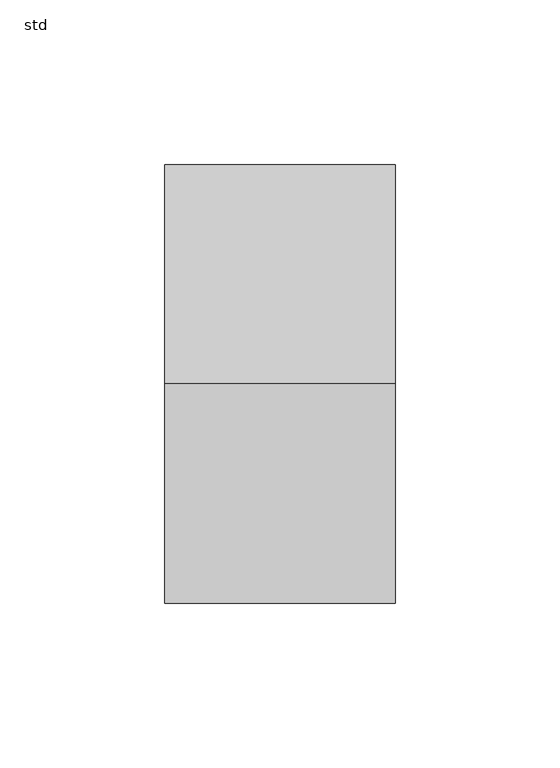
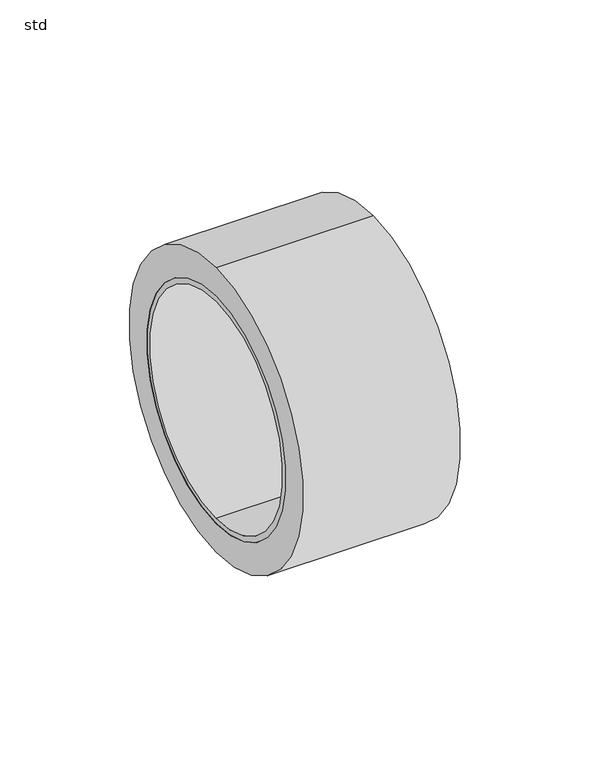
"""IFC4 building model written with IfcOpenShell, lengths in millimetres: pipe fitting geometry, PIF_ST_UN_GM-X compound pipe multi-optimiser (transition)_ACO : std."""

from ifc_helpers import new_model, si_unit, point, frame, origin, origin_2d, place, context, project, spatial, polyline, circle_curve, trimmed, segment, composite_curve, outline, extrude, source, transform, mapped, element, save
from ifc_brep_helpers import plane_surface, cylinder_surface, revolved_surface, advanced_brep


def std_26593bc8(model_context):
    return source(origin(), model_context, "Body", "SolidModel", [
        extrude(outline(composite_curve([segment(trimmed(circle_curve(origin_2d(), 67.0), [point((0.0, -67.0))], [point((0.0, 67.0))], False, "CARTESIAN"), True, "CONTINUOUS"), segment(trimmed(circle_curve(origin_2d(), 67.0), [point((0.0, 67.0))], [point((0.0, -67.0))], False, "CARTESIAN"), True, "CONTINUOUS")], self_intersect=False), holes=[composite_curve([segment(trimmed(circle_curve(origin_2d(), 53.5), [point((0.0, -53.5))], [point((0.0, 53.5))], True, "CARTESIAN"), True, "CONTINUOUS"), segment(trimmed(circle_curve(origin_2d(), 53.5), [point((0.0, 53.5))], [point((0.0, -53.5))], True, "CARTESIAN"), True, "CONTINUOUS")], self_intersect=False)]), frame((550.0, 0.0, 0.0), z_axis=(1.0, 0.0, 0.0), x_axis=(0.0, 1.0, 0.0)), (0.0, 0.0, 1.0), 70.0),
        advanced_brep(
        [(620.0, 0.0, -53.5), (620.0, 0.0, 53.5), (620.0, 0.0, 51.0), (620.0, 0.0, -51.0), (550.0, 0.0, -53.5), (550.0, 0.0, 53.5), (550.0, 0.0, -51.0), (550.0, 0.0, 51.0), (558.3, 0.0, -53.5), (558.3, 0.0, 53.5), (587.0, 0.0, 53.5), (587.0, 0.0, -53.5), (587.0, 0.0, -59.0), (587.0, 0.0, 59.0), (558.3, 0.0, -59.0), (558.3, 0.0, 59.0)],
        [
            (0, 1, circle_curve(frame((620.0, 0.0, 0.0), z_axis=(1.0, 0.0, 0.0), x_axis=(0.0, 0.0, 1.0)), 53.5)),
            (1, 0, circle_curve(frame((620.0, 0.0, 0.0), z_axis=(1.0, 0.0, 0.0), x_axis=(0.0, 0.0, 1.0)), 53.5)),
            (2, 3, circle_curve(frame((620.0, 0.0, 0.0), z_axis=(-1.0, 0.0, 0.0), x_axis=(0.0, 0.0, 1.0)), 51.0)),
            (3, 2, circle_curve(frame((620.0, 0.0, 0.0), z_axis=(-1.0, 0.0, 0.0), x_axis=(0.0, 0.0, 1.0)), 51.0)),
            (4, 5, circle_curve(frame((550.0, 0.0, 0.0), z_axis=(-1.0, 0.0, 0.0), x_axis=(0.0, 0.0, 1.0)), 53.5)),
            (5, 4, circle_curve(frame((550.0, 0.0, 0.0), z_axis=(-1.0, 0.0, 0.0), x_axis=(0.0, 0.0, 1.0)), 53.5)),
            (6, 7, circle_curve(frame((550.0, 0.0, 0.0), z_axis=(1.0, 0.0, 0.0), x_axis=(0.0, 0.0, 1.0)), 51.0)),
            (7, 6, circle_curve(frame((550.0, 0.0, 0.0), z_axis=(1.0, 0.0, 0.0), x_axis=(0.0, 0.0, 1.0)), 51.0)),
            (4, 8),
            (8, 9, circle_curve(frame((558.3, 0.0, 0.0), z_axis=(-1.0, 0.0, 0.0), x_axis=(0.0, 0.0, 1.0)), 53.5)),
            (9, 5),
            (1, 10),
            (10, 11, circle_curve(frame((587.0, 0.0, 0.0), z_axis=(1.0, 0.0, 0.0), x_axis=(0.0, 0.0, 1.0)), 53.5)),
            (11, 0),
            (11, 10, circle_curve(frame((587.0, 0.0, 0.0), z_axis=(1.0, 0.0, 0.0), x_axis=(0.0, 0.0, 1.0)), 53.5)),
            (9, 8, circle_curve(frame((558.3, 0.0, 0.0), z_axis=(-1.0, 0.0, 0.0), x_axis=(0.0, 0.0, 1.0)), 53.5)),
            (3, 6),
            (7, 2),
            (12, 13, circle_curve(frame((587.0, 0.0, 0.0), z_axis=(1.0, 0.0, 0.0), x_axis=(0.0, 0.0, 1.0)), 59.0)),
            (13, 12, circle_curve(frame((587.0, 0.0, 0.0), z_axis=(1.0, 0.0, 0.0), x_axis=(0.0, 0.0, 1.0)), 59.0)),
            (14, 15, circle_curve(frame((558.3, 0.0, 0.0), z_axis=(-1.0, 0.0, 0.0), x_axis=(0.0, 0.0, 1.0)), 59.0)),
            (15, 14, circle_curve(frame((558.3, 0.0, 0.0), z_axis=(-1.0, 0.0, 0.0), x_axis=(0.0, 0.0, 1.0)), 59.0)),
            (13, 15),
            (14, 12),
        ],
        [
            plane_surface(frame((620.0, 0.0, 53.5), z_axis=(1.0, 0.0, 0.0), x_axis=(0.0, 1.0, 0.0))),
            plane_surface(frame((550.0, 0.0, 53.5), z_axis=(-1.0, 0.0, 0.0), x_axis=(0.0, -1.0, 0.0))),
            cylinder_surface(frame((550.0, 0.0, 0.0), z_axis=(1.0, 0.0, 0.0), x_axis=(0.0, 0.0, 1.0)), 53.5),
            revolved_surface(polyline([(620.0, 0.0, 51.0), (550.0, 0.0, 51.0)]), (550.0, 0.0, 0.0), (1.0, 0.0, 0.0)),
            plane_surface(frame((587.0, 0.0, 59.0), z_axis=(1.0, 0.0, 0.0), x_axis=(0.0, 1.0, 0.0))),
            plane_surface(frame((558.3, 0.0, 59.0), z_axis=(-1.0, 0.0, 0.0), x_axis=(0.0, -1.0, 0.0))),
            cylinder_surface(frame((558.3, 0.0, 0.0), z_axis=(1.0, 0.0, 0.0), x_axis=(0.0, 0.0, 1.0)), 59.0),
        ],
        [
            (0, [[1, 2], [3, 4]]),
            (1, [[5, 6], [7, 8]]),
            (2, [[9, 10, 11, -5]]),
            (2, [[12, 13, 14, -2]]),
            (2, [[-14, 15, -12, -1]]),
            (2, [[-11, 16, -9, -6]]),
            (3, [[-4, 17, -8, 18]]),
            (3, [[-7, -17, -3, -18]]),
            (4, [[19, 20], [-15, -13]]),
            (5, [[21, 22], [-16, -10]]),
            (6, [[23, -21, 24, -20]]),
            (6, [[-24, -22, -23, -19]]),
        ],
    ),
    ])


if __name__ == "__main__":
    model = new_model("IFC4")
    model_context = context("Model", 3, world=origin())
    ifc_project = project(units=[si_unit("LENGTHUNIT", "METRE", prefix="MILLI")], contexts=[model_context])
    site = spatial("IfcSite", under=ifc_project)
    building = spatial("IfcBuilding", under=site)
    placement = place(None, origin())
    std_shape = std_26593bc8(model_context)
    element("IfcPipeFitting", 1, ObjectType="PIF_ST_UN_GM-X compound pipe multi-optimiser (transition)_ACO : std", at=placement, inside=building, context=model_context, shape_type="MappedRepresentation", body=[
        mapped(std_shape, transform((0.0, 0.0, 0.0), x_axis=(1.0, 0.0, 0.0), y_axis=(0.0, 1.0, 0.0), z_axis=(0.0, 0.0, 1.0))),
    ])
    save(model, "model.ifc")
